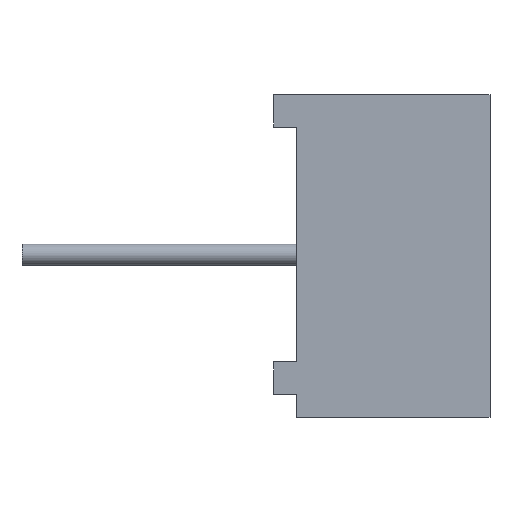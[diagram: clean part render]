
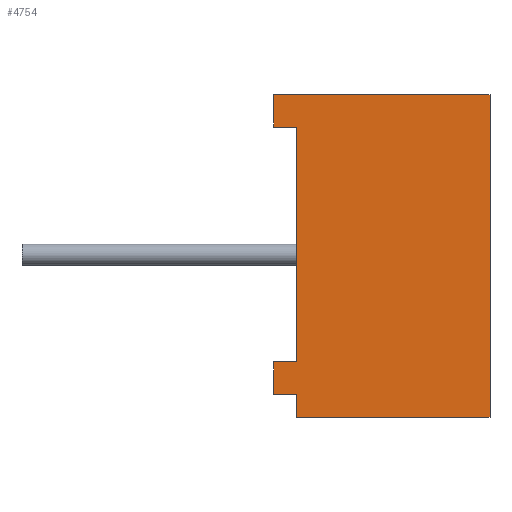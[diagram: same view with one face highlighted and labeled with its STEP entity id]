
A CAD part, left-side view. The second image highlights one B-rep face of the part: STEP entity #4754.
In plain terms, the highlighted planar face has unit normal (-1, 0, 0).
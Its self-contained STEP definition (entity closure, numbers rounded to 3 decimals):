
#254=LINE('',#7289,#644);
#258=LINE('',#7297,#648);
#273=LINE('',#7327,#663);
#277=LINE('',#7335,#667);
#280=LINE('',#7341,#670);
#439=LINE('',#7711,#829);
#443=LINE('',#7736,#833);
#444=LINE('',#7738,#834);
#448=LINE('',#7746,#838);
#449=LINE('',#7748,#839);
#644=VECTOR('',#5334,1000.);
#648=VECTOR('',#5338,1000.);
#663=VECTOR('',#5361,1000.);
#667=VECTOR('',#5369,1000.);
#670=VECTOR('',#5374,1000.);
#829=VECTOR('',#5695,1000.);
#833=VECTOR('',#5739,1000.);
#834=VECTOR('',#5742,1000.);
#838=VECTOR('',#5750,1000.);
#839=VECTOR('',#5751,1000.);
#1658=ORIENTED_EDGE('',*,*,#2288,.T.);
#1659=ORIENTED_EDGE('',*,*,#2087,.F.);
#1660=ORIENTED_EDGE('',*,*,#2068,.T.);
#1661=ORIENTED_EDGE('',*,*,#2270,.T.);
#1662=ORIENTED_EDGE('',*,*,#2293,.F.);
#1663=ORIENTED_EDGE('',*,*,#2294,.F.);
#1664=ORIENTED_EDGE('',*,*,#2289,.T.);
#1665=ORIENTED_EDGE('',*,*,#2094,.F.);
#1666=ORIENTED_EDGE('',*,*,#2072,.T.);
#1667=ORIENTED_EDGE('',*,*,#2091,.T.);
#2068=EDGE_CURVE('',#2465,#2464,#254,.T.);
#2072=EDGE_CURVE('',#2469,#2468,#258,.T.);
#2087=EDGE_CURVE('',#2465,#2479,#273,.T.);
#2091=EDGE_CURVE('',#2468,#2481,#277,.T.);
#2094=EDGE_CURVE('',#2469,#2483,#280,.T.);
#2270=EDGE_CURVE('',#2464,#2609,#439,.T.);
#2288=EDGE_CURVE('',#2481,#2479,#443,.T.);
#2289=EDGE_CURVE('',#2611,#2483,#444,.T.);
#2293=EDGE_CURVE('',#2613,#2609,#448,.T.);
#2294=EDGE_CURVE('',#2611,#2613,#449,.T.);
#2464=VERTEX_POINT('',#7288);
#2465=VERTEX_POINT('',#7290);
#2468=VERTEX_POINT('',#7296);
#2469=VERTEX_POINT('',#7298);
#2479=VERTEX_POINT('',#7325);
#2481=VERTEX_POINT('',#7334);
#2483=VERTEX_POINT('',#7339);
#2609=VERTEX_POINT('',#7710);
#2611=VERTEX_POINT('',#7739);
#2613=VERTEX_POINT('',#7747);
#2858=EDGE_LOOP('',(#1658,#1659,#1660,#1661,#1662,#1663,#1664,#1665,#1666,
#1667));
#3072=FACE_BOUND('',#2858,.T.);
#3247=PLANE('',#4961);
#4754=ADVANCED_FACE('',(#3072),#3247,.T.);
#4961=AXIS2_PLACEMENT_3D('',#7745,#5748,#5749);
#5334=DIRECTION('',(0.,0.,-1.));
#5338=DIRECTION('',(0.,0.,-1.));
#5361=DIRECTION('',(0.,1.,0.));
#5369=DIRECTION('',(0.,1.,0.));
#5374=DIRECTION('',(0.,1.,0.));
#5695=DIRECTION('',(0.,-1.,0.));
#5739=DIRECTION('',(0.,0.,-1.));
#5742=DIRECTION('',(0.,0.,-1.));
#5748=DIRECTION('',(-1.,0.,0.));
#5749=DIRECTION('',(0.,0.,1.));
#5750=DIRECTION('',(0.,0.,-1.));
#5751=DIRECTION('',(0.,-1.,0.));
#7288=CARTESIAN_POINT('',(-3.3,4.2,-3.5));
#7289=CARTESIAN_POINT('',(-3.3,4.2,-3.5));
#7290=CARTESIAN_POINT('',(-3.3,4.2,-3.));
#7296=CARTESIAN_POINT('',(-3.3,4.2,-2.3));
#7297=CARTESIAN_POINT('',(-3.3,4.2,2.8));
#7298=CARTESIAN_POINT('',(-3.3,4.2,2.8));
#7325=CARTESIAN_POINT('',(-3.3,4.7,-3.));
#7327=CARTESIAN_POINT('',(-3.3,4.2,-3.));
#7334=CARTESIAN_POINT('',(-3.3,4.7,-2.3));
#7335=CARTESIAN_POINT('',(-3.3,4.2,-2.3));
#7339=CARTESIAN_POINT('',(-3.3,4.7,2.8));
#7341=CARTESIAN_POINT('',(-3.3,4.2,2.8));
#7710=CARTESIAN_POINT('',(-3.3,0.,-3.5));
#7711=CARTESIAN_POINT('',(-3.3,4.7,-3.5));
#7736=CARTESIAN_POINT('',(-3.3,4.7,3.5));
#7738=CARTESIAN_POINT('',(-3.3,4.7,3.5));
#7739=CARTESIAN_POINT('',(-3.3,4.7,3.5));
#7745=CARTESIAN_POINT('',(-3.3,4.7,3.5));
#7746=CARTESIAN_POINT('',(-3.3,0.,3.5));
#7747=CARTESIAN_POINT('',(-3.3,0.,3.5));
#7748=CARTESIAN_POINT('',(-3.3,4.7,3.5));
